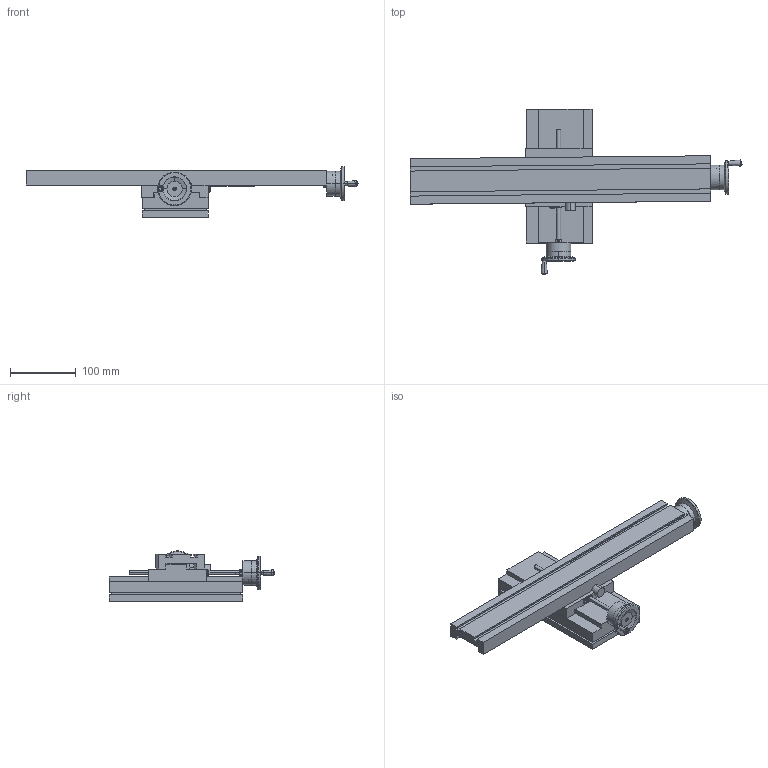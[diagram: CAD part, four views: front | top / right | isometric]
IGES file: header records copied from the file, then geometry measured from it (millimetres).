
Start section: Comment
Global section: file name: 6540 -ind x,y-base 18.igs; native system:  By Spatial Corp.; preprocessor: XPlus PS/IGES 3.0; author: Author; organization: Title; date: 20190723.121148; units: inch
Bounding box: 505.28 x 251.17 x 76.59 mm (x, y, z)
Surface area: 243845.4 mm2 (no closed solid volume)
Topology: 0 solids, 0 shells, 644 faces, 3032 edges, 3026 vertices
Faces by surface type: extrusion 346, revolution 298
